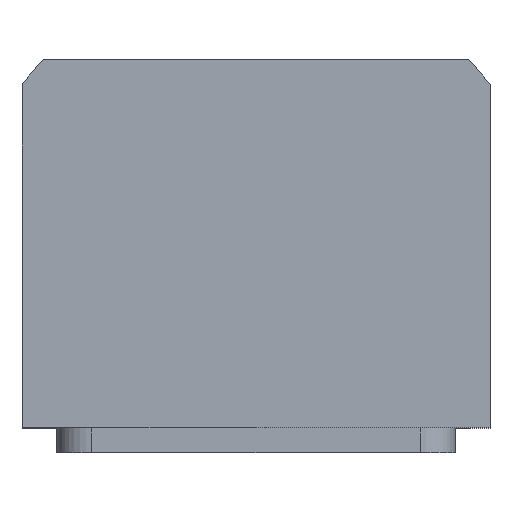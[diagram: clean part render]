
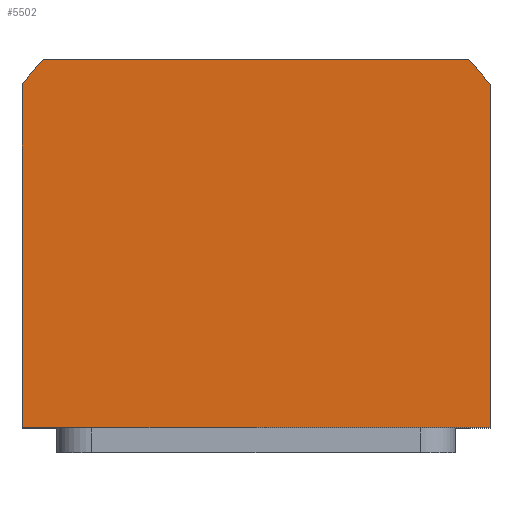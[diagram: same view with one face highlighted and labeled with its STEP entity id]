
A CAD part, top view. The second image highlights one B-rep face of the part: STEP entity #5502.
In plain terms, the highlighted planar face has unit normal (0, 0, 1).
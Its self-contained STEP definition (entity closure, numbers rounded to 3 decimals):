
#2647=PLANE('',#12140);
#2976=FACE_OUTER_BOUND('',#6298,.T.);
#3373=LINE('',#19663,#4280);
#3392=LINE('',#20314,#4299);
#3413=LINE('',#20391,#4320);
#3418=LINE('',#20405,#4325);
#4280=VECTOR('',#12662,1.);
#4299=VECTOR('',#12765,1.);
#4320=VECTOR('',#12828,1.);
#4325=VECTOR('',#12843,1.);
#5502=ADVANCED_FACE('',(#2976),#2647,.T.);
#5968=CIRCLE('',#12118,58.5);
#5974=CIRCLE('',#12129,58.5);
#6298=EDGE_LOOP('',(#7268,#7269,#7270,#7271,#7272,#7273));
#7268=ORIENTED_EDGE('',*,*,#10636,.T.);
#7269=ORIENTED_EDGE('',*,*,#10553,.T.);
#7270=ORIENTED_EDGE('',*,*,#10659,.T.);
#7271=ORIENTED_EDGE('',*,*,#10671,.T.);
#7272=ORIENTED_EDGE('',*,*,#10643,.T.);
#7273=ORIENTED_EDGE('',*,*,#10679,.T.);
#9567=VERTEX_POINT('',#19633);
#9582=VERTEX_POINT('',#19662);
#9657=VERTEX_POINT('',#20310);
#9661=VERTEX_POINT('',#20323);
#9664=VERTEX_POINT('',#20328);
#9675=VERTEX_POINT('',#20369);
#10553=EDGE_CURVE('',#9567,#9582,#3373,.T.);
#10636=EDGE_CURVE('',#9657,#9567,#3392,.T.);
#10643=EDGE_CURVE('',#9661,#9664,#5968,.T.);
#10659=EDGE_CURVE('',#9582,#9675,#5974,.T.);
#10671=EDGE_CURVE('',#9675,#9661,#3413,.T.);
#10679=EDGE_CURVE('',#9664,#9657,#3418,.T.);
#12118=AXIS2_PLACEMENT_3D('',#20329,#12779,#12780);
#12129=AXIS2_PLACEMENT_3D('',#20370,#12810,#12811);
#12140=AXIS2_PLACEMENT_3D('',#20418,#12853,#12854);
#12662=DIRECTION('',(0.,1.,0.));
#12765=DIRECTION('',(1.,0.,0.));
#12779=DIRECTION('',(0.,0.,1.));
#12780=DIRECTION('',(1.,0.,0.));
#12810=DIRECTION('',(0.,0.,1.));
#12811=DIRECTION('',(1.,0.,0.));
#12828=DIRECTION('',(-1.,0.,0.));
#12843=DIRECTION('',(0.,-1.,0.));
#12853=DIRECTION('',(0.,0.,1.));
#12854=DIRECTION('',(-1.,0.,0.));
#19633=CARTESIAN_POINT('',(47.,-34.,42.5));
#19662=CARTESIAN_POINT('',(47.,34.832,42.5));
#19663=CARTESIAN_POINT('',(47.,34.832,42.5));
#20310=CARTESIAN_POINT('',(-47.,-34.,42.5));
#20314=CARTESIAN_POINT('',(47.,-34.,42.5));
#20323=CARTESIAN_POINT('',(-42.688,40.,42.5));
#20328=CARTESIAN_POINT('',(-47.,34.832,42.5));
#20329=CARTESIAN_POINT('',(0.,0.,42.5));
#20369=CARTESIAN_POINT('',(42.688,40.,42.5));
#20370=CARTESIAN_POINT('',(0.,0.,42.5));
#20391=CARTESIAN_POINT('',(-42.688,40.,42.5));
#20405=CARTESIAN_POINT('',(-47.,-34.,42.5));
#20418=CARTESIAN_POINT('',(0.,0.,42.5));
